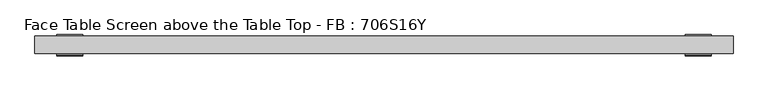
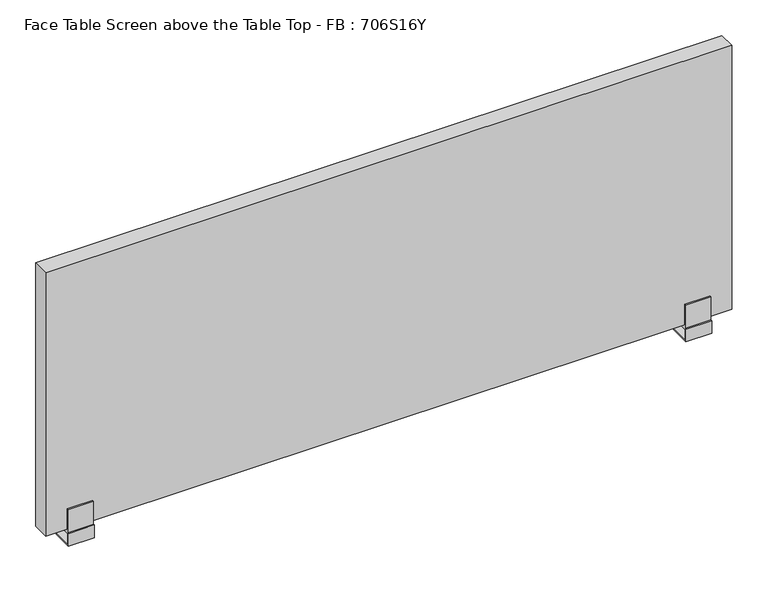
"""IFC4 building model written with IfcOpenShell, lengths in millimetres: furniture geometry, Face Table Screen above the Table Top - FB : 706S16Y."""

from ifc_helpers import new_model, si_unit, frame, origin, place, context, project, spatial, polyline, circle_curve, outline, extrude, source, transform, mapped, element, save
from ifc_brep_helpers import plane_surface, cylinder_surface, advanced_brep


def face_table_screen_above_the_table_top_fb_706s16y_91cf14b0(model_context):
    return source(origin(), model_context, "Body", "SolidModel", [
        advanced_brep(
        [(-725.0, 20.0, -39.4406633), (-715.0, 20.0, -39.4406633), (-715.0, 20.0, -28.0), (-725.0, 20.0, -28.0), (-750.0, 43.0, -25.0), (-750.0, -3.0, -25.0), (-690.0, -3.0, -25.0), (-690.0, 43.0, -25.0), (-750.0, -3.0, 0.0), (-750.0, 43.0, -28.0), (-750.0, -6.0, -28.0), (-750.0, -6.0, 3.0), (-750.0, -3.0, 3.0), (-750.0, -3.0, 60.0), (-750.0, 0.0, 60.0), (-750.0, 0.0, 10.0), (-750.0, 40.0, 10.0), (-750.0, 40.0, 60.0), (-750.0, 43.0, 60.0), (-750.0, 43.0, 0.0), (-690.0, -3.0, 0.0), (-690.0, 43.0, 0.0), (-690.0, 43.0, 60.0), (-690.0, 40.0, 60.0), (-690.0, 40.0, 10.0), (-690.0, 0.0, 10.0), (-690.0, 0.0, 60.0), (-690.0, -3.0, 60.0), (-690.0, -3.0, 3.0), (-690.0, -6.0, 3.0), (-690.0, -6.0, -28.0), (-690.0, 43.0, -28.0)],
        [
            (0, 1, circle_curve(frame((-720.0, 20.0, -39.4406633), z_axis=(0.0, 0.0, -1.0), x_axis=(1.0, 0.0, 0.0)), 5.0)),
            (1, 0, circle_curve(frame((-720.0, 20.0, -39.4406633), z_axis=(0.0, 0.0, -1.0), x_axis=(1.0, 0.0, 0.0)), 5.0)),
            (1, 2),
            (2, 3, circle_curve(frame((-720.0, 20.0, -28.0), z_axis=(0.0, 0.0, -1.0), x_axis=(1.0, 0.0, 0.0)), 5.0)),
            (3, 0),
            (3, 2, circle_curve(frame((-720.0, 20.0, -28.0), z_axis=(0.0, 0.0, -1.0), x_axis=(1.0, 0.0, 0.0)), 5.0)),
            (4, 5),
            (5, 6),
            (6, 7),
            (7, 4),
            (8, 5),
            (4, 9),
            (9, 10),
            (10, 11),
            (11, 12),
            (12, 13),
            (13, 14),
            (14, 15),
            (15, 16),
            (16, 17),
            (17, 18),
            (18, 19),
            (19, 8),
            (20, 21),
            (21, 22),
            (22, 23),
            (23, 24),
            (24, 25),
            (25, 26),
            (26, 27),
            (27, 28),
            (28, 29),
            (29, 30),
            (30, 31),
            (31, 7),
            (6, 20),
            (19, 21),
            (20, 8),
            (18, 22),
            (17, 23),
            (16, 24),
            (15, 25),
            (14, 26),
            (13, 27),
            (12, 28),
            (11, 29),
            (10, 30),
            (9, 31),
        ],
        [
            plane_surface(frame((-715.0, 20.0, -39.4406633), z_axis=(0.0, 0.0, -1.0), x_axis=(0.0, -1.0, 0.0))),
            cylinder_surface(frame((-720.0, 20.0, -39.4406633), z_axis=(0.0, 0.0, 1.0), x_axis=(1.0, 0.0, 0.0)), 5.0),
            plane_surface(frame((-715.0, 20.0, -25.0), z_axis=(0.0, 0.0, 1.0), x_axis=(0.0, 1.0, 0.0))),
            plane_surface(frame((-750.0, 43.0, 0.0), z_axis=(-1.0, 0.0, 0.0), x_axis=(0.0, -1.0, 0.0))),
            plane_surface(frame((-690.0, 43.0, 0.0), z_axis=(1.0, 0.0, 0.0), x_axis=(0.0, 1.0, 0.0))),
            plane_surface(frame((-690.0, -3.0, 0.0), z_axis=(0.0, 0.0, -1.0), x_axis=(-1.0, 0.0, 0.0))),
            plane_surface(frame((-690.0, 43.0, 0.0), z_axis=(0.0, 1.0, 0.0), x_axis=(-1.0, 0.0, 0.0))),
            plane_surface(frame((-690.0, 43.0, 60.0), z_axis=(0.0, 0.0, 1.0), x_axis=(-1.0, 0.0, 0.0))),
            plane_surface(frame((-690.0, 40.0, 60.0), z_axis=(0.0, -1.0, 0.0), x_axis=(-1.0, 0.0, 0.0))),
            plane_surface(frame((-690.0, 40.0, 10.0), z_axis=(0.0, 0.0, 1.0), x_axis=(-1.0, 0.0, 0.0))),
            plane_surface(frame((-690.0, 0.0, 10.0), z_axis=(0.0, 1.0, 0.0), x_axis=(-1.0, 0.0, 0.0))),
            plane_surface(frame((-690.0, 0.0, 60.0), z_axis=(0.0, 0.0, 1.0), x_axis=(-1.0, 0.0, 0.0))),
            plane_surface(frame((-690.0, -3.0, 60.0), z_axis=(0.0, -1.0, 0.0), x_axis=(-1.0, 0.0, 0.0))),
            plane_surface(frame((-690.0, -3.0, 3.0), z_axis=(0.0, 0.0, 1.0), x_axis=(-1.0, 0.0, 0.0))),
            plane_surface(frame((-690.0, -6.0, 3.0), z_axis=(0.0, -1.0, 0.0), x_axis=(-1.0, 0.0, 0.0))),
            plane_surface(frame((-690.0, -6.0, -28.0), z_axis=(0.0, 0.0, -1.0), x_axis=(-1.0, 0.0, 0.0))),
            plane_surface(frame((-690.0, 43.0, -28.0), z_axis=(0.0, 1.0, 0.0), x_axis=(-1.0, 0.0, 0.0))),
            plane_surface(frame((-690.0, -3.0, -25.0), z_axis=(0.0, 1.0, 0.0), x_axis=(-1.0, 0.0, 0.0))),
        ],
        [
            (0, [[1, 2]]),
            (1, [[-2, 3, 4, 5]]),
            (1, [[-1, -5, 6, -3]]),
            (2, [[7, 8, 9, 10]]),
            (3, [[11, -7, 12, 13, 14, 15, 16, 17, 18, 19, 20, 21, 22, 23]]),
            (4, [[24, 25, 26, 27, 28, 29, 30, 31, 32, 33, 34, 35, -9, 36]]),
            (5, [[-23, 37, -24, 38]]),
            (6, [[-22, 39, -25, -37]]),
            (7, [[-21, 40, -26, -39]]),
            (8, [[-20, 41, -27, -40]]),
            (9, [[-19, 42, -28, -41]]),
            (10, [[-18, 43, -29, -42]]),
            (11, [[-17, 44, -30, -43]]),
            (12, [[-16, 45, -31, -44]]),
            (13, [[-15, 46, -32, -45]]),
            (14, [[-14, 47, -33, -46]]),
            (15, [[-13, 48, -34, -47], [-4, -6]]),
            (16, [[-12, -10, -35, -48]]),
            (17, [[-11, -38, -36, -8]]),
        ],
    ),
        advanced_brep(
        [(715.0, 20.0, -39.4406633), (725.0, 20.0, -39.4406633), (725.0, 20.0, -28.0), (715.0, 20.0, -28.0), (690.0, 43.0, -25.0), (690.0, -3.0, -25.0), (750.0, -3.0, -25.0), (750.0, 43.0, -25.0), (690.0, -3.0, 0.0), (690.0, 43.0, -28.0), (690.0, -6.0, -28.0), (690.0, -6.0, 3.0), (690.0, -3.0, 3.0), (690.0, -3.0, 60.0), (690.0, 0.0, 60.0), (690.0, 0.0, 10.0), (690.0, 40.0, 10.0), (690.0, 40.0, 60.0), (690.0, 43.0, 60.0), (690.0, 43.0, 0.0), (750.0, -3.0, 0.0), (750.0, 43.0, 0.0), (750.0, 43.0, 60.0), (750.0, 40.0, 60.0), (750.0, 40.0, 10.0), (750.0, 0.0, 10.0), (750.0, 0.0, 60.0), (750.0, -3.0, 60.0), (750.0, -3.0, 3.0), (750.0, -6.0, 3.0), (750.0, -6.0, -28.0), (750.0, 43.0, -28.0)],
        [
            (0, 1, circle_curve(frame((720.0, 20.0, -39.4406633), z_axis=(0.0, 0.0, -1.0), x_axis=(1.0, 0.0, 0.0)), 5.0)),
            (1, 0, circle_curve(frame((720.0, 20.0, -39.4406633), z_axis=(0.0, 0.0, -1.0), x_axis=(1.0, 0.0, 0.0)), 5.0)),
            (1, 2),
            (2, 3, circle_curve(frame((720.0, 20.0, -28.0), z_axis=(0.0, 0.0, -1.0), x_axis=(1.0, 0.0, 0.0)), 5.0)),
            (3, 0),
            (3, 2, circle_curve(frame((720.0, 20.0, -28.0), z_axis=(0.0, 0.0, -1.0), x_axis=(1.0, 0.0, 0.0)), 5.0)),
            (4, 5),
            (5, 6),
            (6, 7),
            (7, 4),
            (8, 5),
            (4, 9),
            (9, 10),
            (10, 11),
            (11, 12),
            (12, 13),
            (13, 14),
            (14, 15),
            (15, 16),
            (16, 17),
            (17, 18),
            (18, 19),
            (19, 8),
            (20, 21),
            (21, 22),
            (22, 23),
            (23, 24),
            (24, 25),
            (25, 26),
            (26, 27),
            (27, 28),
            (28, 29),
            (29, 30),
            (30, 31),
            (31, 7),
            (6, 20),
            (19, 21),
            (20, 8),
            (18, 22),
            (17, 23),
            (16, 24),
            (15, 25),
            (14, 26),
            (13, 27),
            (12, 28),
            (11, 29),
            (10, 30),
            (9, 31),
        ],
        [
            plane_surface(frame((725.0, 20.0, -39.4406633), z_axis=(0.0, 0.0, -1.0), x_axis=(0.0, -1.0, 0.0))),
            cylinder_surface(frame((720.0, 20.0, -39.4406633), z_axis=(0.0, 0.0, 1.0), x_axis=(1.0, 0.0, 0.0)), 5.0),
            plane_surface(frame((725.0, 20.0, -25.0), z_axis=(0.0, 0.0, 1.0), x_axis=(0.0, 1.0, 0.0))),
            plane_surface(frame((690.0, 43.0, 0.0), z_axis=(-1.0, 0.0, 0.0), x_axis=(0.0, -1.0, 0.0))),
            plane_surface(frame((750.0, 43.0, 0.0), z_axis=(1.0, 0.0, 0.0), x_axis=(0.0, 1.0, 0.0))),
            plane_surface(frame((750.0, -3.0, 0.0), z_axis=(0.0, 0.0, -1.0), x_axis=(-1.0, 0.0, 0.0))),
            plane_surface(frame((750.0, 43.0, 0.0), z_axis=(0.0, 1.0, 0.0), x_axis=(-1.0, 0.0, 0.0))),
            plane_surface(frame((750.0, 43.0, 60.0), z_axis=(0.0, 0.0, 1.0), x_axis=(-1.0, 0.0, 0.0))),
            plane_surface(frame((750.0, 40.0, 60.0), z_axis=(0.0, -1.0, 0.0), x_axis=(-1.0, 0.0, 0.0))),
            plane_surface(frame((750.0, 40.0, 10.0), z_axis=(0.0, 0.0, 1.0), x_axis=(-1.0, 0.0, 0.0))),
            plane_surface(frame((750.0, 0.0, 10.0), z_axis=(0.0, 1.0, 0.0), x_axis=(-1.0, 0.0, 0.0))),
            plane_surface(frame((750.0, 0.0, 60.0), z_axis=(0.0, 0.0, 1.0), x_axis=(-1.0, 0.0, 0.0))),
            plane_surface(frame((750.0, -3.0, 60.0), z_axis=(0.0, -1.0, 0.0), x_axis=(-1.0, 0.0, 0.0))),
            plane_surface(frame((750.0, -3.0, 3.0), z_axis=(0.0, 0.0, 1.0), x_axis=(-1.0, 0.0, 0.0))),
            plane_surface(frame((750.0, -6.0, 3.0), z_axis=(0.0, -1.0, 0.0), x_axis=(-1.0, 0.0, 0.0))),
            plane_surface(frame((750.0, -6.0, -28.0), z_axis=(0.0, 0.0, -1.0), x_axis=(-1.0, 0.0, 0.0))),
            plane_surface(frame((750.0, 43.0, -28.0), z_axis=(0.0, 1.0, 0.0), x_axis=(-1.0, 0.0, 0.0))),
            plane_surface(frame((750.0, -3.0, -25.0), z_axis=(0.0, 1.0, 0.0), x_axis=(-1.0, 0.0, 0.0))),
        ],
        [
            (0, [[1, 2]]),
            (1, [[-2, 3, 4, 5]]),
            (1, [[-1, -5, 6, -3]]),
            (2, [[7, 8, 9, 10]]),
            (3, [[11, -7, 12, 13, 14, 15, 16, 17, 18, 19, 20, 21, 22, 23]]),
            (4, [[24, 25, 26, 27, 28, 29, 30, 31, 32, 33, 34, 35, -9, 36]]),
            (5, [[-23, 37, -24, 38]]),
            (6, [[-22, 39, -25, -37]]),
            (7, [[-21, 40, -26, -39]]),
            (8, [[-20, 41, -27, -40]]),
            (9, [[-19, 42, -28, -41]]),
            (10, [[-18, 43, -29, -42]]),
            (11, [[-17, 44, -30, -43]]),
            (12, [[-16, 45, -31, -44]]),
            (13, [[-15, 46, -32, -45]]),
            (14, [[-14, 47, -33, -46]]),
            (15, [[-13, 48, -34, -47], [-4, -6]]),
            (16, [[-12, -10, -35, -48]]),
            (17, [[-11, -38, -36, -8]]),
        ],
    ),
        extrude(outline(polyline([(800.0, 0.0), (-800.0, 0.0), (-800.0, 40.0), (800.0, 40.0), (800.0, 0.0)])), frame((0.0, 0.0, 10.0), z_axis=(0.0, 0.0, 1.0), x_axis=(1.0, 0.0, 0.0)), (0.0, 0.0, 1.0), 650.0),
    ])


if __name__ == "__main__":
    model = new_model("IFC4")
    model_context = context("Model", 3, world=origin())
    ifc_project = project(units=[si_unit("LENGTHUNIT", "METRE", prefix="MILLI")], contexts=[model_context])
    site = spatial("IfcSite", under=ifc_project)
    building = spatial("IfcBuilding", under=site)
    placement = place(None, origin())
    face_table_screen_above_the_table_top_fb_706s16y_shape = face_table_screen_above_the_table_top_fb_706s16y_91cf14b0(model_context)
    element("IfcFurniture", 1, ObjectType="Face Table Screen above the Table Top - FB : 706S16Y", at=placement, inside=building, context=model_context, shape_type="MappedRepresentation", body=[
        mapped(face_table_screen_above_the_table_top_fb_706s16y_shape, transform((0.0, 0.0, 0.0), x_axis=(1.0, 0.0, 0.0), y_axis=(0.0, 1.0, 0.0), z_axis=(0.0, 0.0, 1.0))),
    ])
    save(model, "model.ifc")
